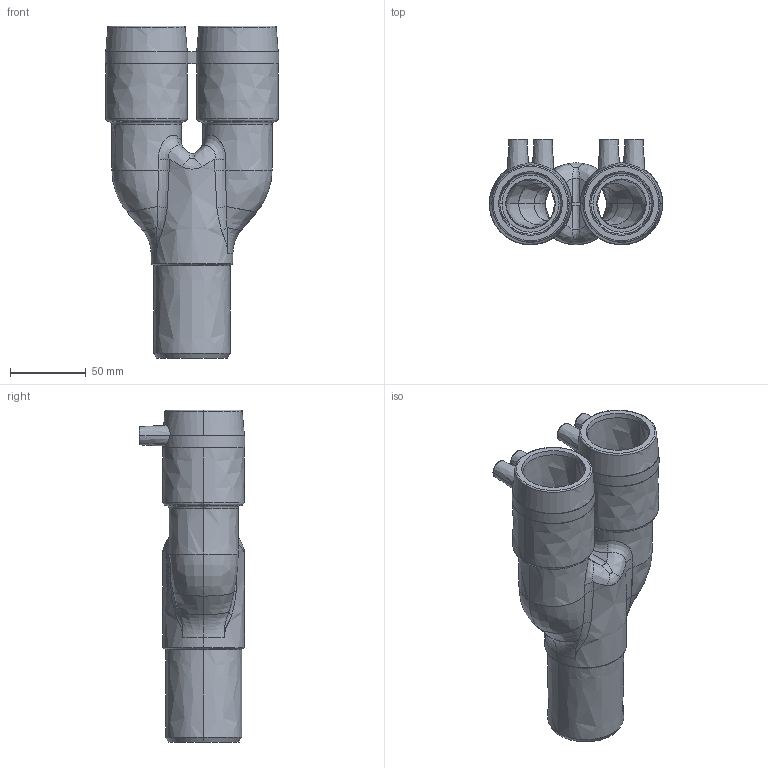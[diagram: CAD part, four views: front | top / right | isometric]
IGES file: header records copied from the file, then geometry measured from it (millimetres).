
Start section:  PTC IGES file: ys_d40-40-50_01.igs
Global section: file name: ys_d40-40-50_01.igs; native system: Pro/ENGINEER by Parametric Technology Corporation; preprocessor: 2011490; author: mtunjic; organization: Unknown; date: 20130816.140336; units: millimetre
Bounding box: 114.4 x 69.7 x 219 mm (x, y, z)
Surface area: 103947.9 mm2 (no closed solid volume)
Topology: 0 solids, 0 shells, 281 faces, 1392 edges, 1392 vertices
Faces by surface type: bspline 281
